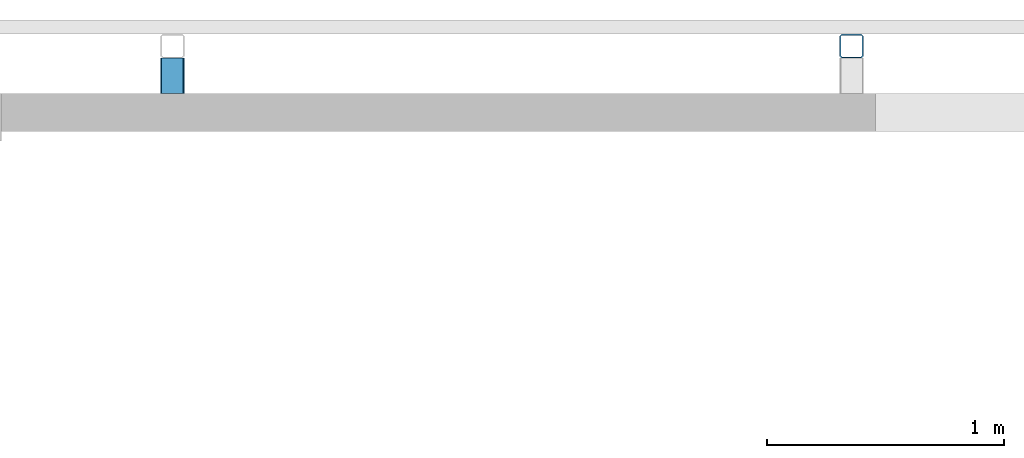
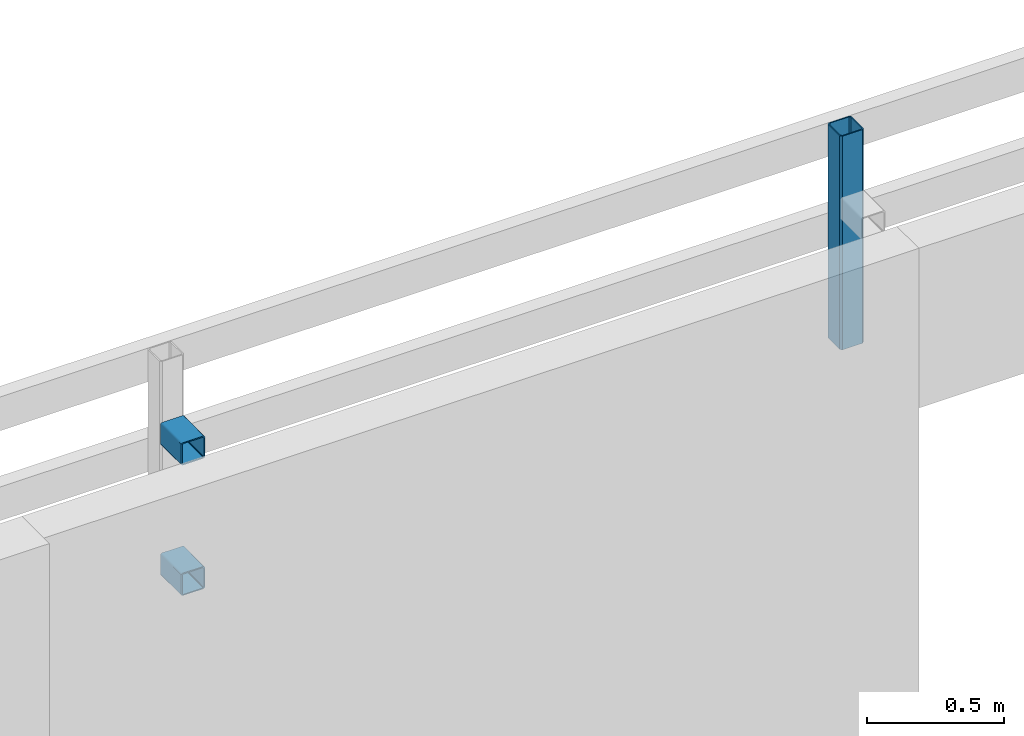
# One storey, part 17 of 42: 3 members.
"""IFC4 building model written with IfcOpenShell, lengths in metres."""

from ifc_helpers import new_model, entity, si_unit, converted_unit, derived_unit, frame, origin, place, context, subcontext, project, spatial, faceted_brep, material, element, save


model = new_model("IFC4")

# Units and contexts
model_context = context("Model", 3, precision=1e-05, world=origin())
plan_context = context("Plan", 2, precision=1e-05, world=origin())
body_context = subcontext(model_context, "Body", "Model", "MODEL_VIEW")
ifc_project = project(units=[si_unit("LENGTHUNIT", "METRE"), si_unit("AREAUNIT", "SQUARE_METRE"), si_unit("VOLUMEUNIT", "CUBIC_METRE"), si_unit("MASSUNIT", "GRAM", prefix="KILO"), converted_unit("PLANEANGLEUNIT", "DEGREE", entity("IfcPlaneAngleMeasure", 0.0174532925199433), si_unit("PLANEANGLEUNIT", "RADIAN"), dimensions=[0, 0, 0, 0, 0, 0, 0]), derived_unit("THERMALTRANSMITTANCEUNIT", [(si_unit("POWERUNIT", "WATT"), 1), (si_unit("THERMODYNAMICTEMPERATUREUNIT", "KELVIN"), -1), (si_unit("LENGTHUNIT", "METRE"), -2)]), derived_unit("VOLUMETRICFLOWRATEUNIT", [(si_unit("LENGTHUNIT", "METRE"), 3), (converted_unit("TIMEUNIT", "hour", entity("IfcTimeMeasure", 3600.0), si_unit("TIMEUNIT", "SECOND"), dimensions=[0, 0, 1, 0, 0, 0, 0]), -1), (si_unit("LENGTHUNIT", "METRE"), -1)])], contexts=[model_context, plan_context])

# Site, building, storey
site_placement = place(None, origin())
site = spatial("IfcSite", under=ifc_project, at=site_placement, Name="Site", CompositionType="ELEMENT")
building_placement = place(site_placement, origin())
building = spatial("IfcBuilding", under=site, at=building_placement, Name="Admin", CompositionType="ELEMENT")
storey_placement = place(building_placement, frame((0.0, 0.0, 6.61)))
storey = spatial("IfcBuildingStorey", under=building, at=storey_placement, Name="02-Etage2", CompositionType="ELEMENT", Elevation=6.61)

# Members
ifc_material_1 = material(Name="S235")
member_1_placement = place(storey_placement, frame((32.4798005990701, 22.4994493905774, 2.28)))
element("IfcMember", 1, at=member_1_placement, inside=storey, material=ifc_material_1, Name="Bandeau R+2", context=body_context, shape_type="Brep", body=[
    faceted_brep([(0.09, 0.005, 0.0), (0.09, 0.005, 0.95), (0.01, 0.005, 0.95), (0.01, 0.005, 0.0), (0.095, 0.01, 0.0), (0.095, 0.01, 0.95), (0.095, 0.09, 0.0), (0.095, 0.09, 0.95), (0.09, 0.095, 0.0), (0.09, 0.095, 0.95), (0.01, 0.095, 0.0), (0.01, 0.095, 0.95), (0.005, 0.09, 0.0), (0.005, 0.09, 0.95), (0.005, 0.01, 0.0), (0.005, 0.01, 0.95), (0.0, 0.0075, 0.0), (0.0, 0.0075, 0.95), (0.0075, 0.0, 0.95), (0.0075, 0.0, 0.0), (0.0, 0.0925, 0.0), (0.0, 0.0925, 0.95), (0.0075, 0.1, 0.0), (0.0075, 0.1, 0.95), (0.0925, 0.1, 0.0), (0.0925, 0.1, 0.95), (0.1, 0.0925, 0.0), (0.1, 0.0925, 0.95), (0.1, 0.0075, 0.0), (0.1, 0.0075, 0.95), (0.0925, 0.0, 0.0), (0.0925, 0.0, 0.95)], [[[0, 1, 2, 3]], [[4, 5, 1, 0]], [[6, 7, 5, 4]], [[8, 9, 7, 6]], [[10, 11, 9, 8]], [[12, 13, 11, 10]], [[14, 15, 13, 12]], [[3, 2, 15, 14]], [[16, 17, 18, 19]], [[20, 21, 17, 16]], [[22, 23, 21, 20]], [[24, 25, 23, 22]], [[26, 27, 25, 24]], [[28, 29, 27, 26]], [[30, 31, 29, 28]], [[19, 18, 31, 30]], [[18, 17, 21, 23, 25, 27, 29, 31], [2, 1, 5, 7, 9, 11, 13, 15]], [[19, 30, 28, 26, 24, 22, 20, 16], [3, 14, 12, 10, 8, 6, 4, 0]]], orient=[[False], [False], [False], [False], [False], [False], [False], [False], [False], [False], [False], [False], [False], [False], [False], [False], [False, False], [False, False]]),
])
ifc_material_2 = material(Name="S235")
member_2_placement = place(storey_placement, frame((29.6198005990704, 22.3494493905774, 2.28)))
element("IfcMember", 2, at=member_2_placement, inside=storey, material=ifc_material_2, Name="Bandeau R+2", context=body_context, shape_type="Brep", body=[
    faceted_brep([(0.00500000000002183, 0.15, 0.09), (0.00500000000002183, 0.15, 0.01), (0.005, 1.81898940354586e-14, 0.01), (0.005, 1.81898940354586e-14, 0.09), (0.00507596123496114, 0.15, 0.0908682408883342), (0.00507596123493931, 1.81898940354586e-14, 0.0908682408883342), (0.00530153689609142, 0.15, 0.0917101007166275), (0.00530153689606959, 1.81898940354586e-14, 0.0917101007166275), (0.00566987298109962, 0.15, 0.0925), (0.00566987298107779, 1.81898940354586e-14, 0.0925), (0.00616977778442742, 0.15, 0.0932139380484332), (0.0061697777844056, 1.81898940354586e-14, 0.0932139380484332), (0.00678606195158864, 0.15, 0.0938302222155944), (0.00678606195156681, 1.81898940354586e-14, 0.0938302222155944), (0.00750000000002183, 0.15, 0.0943301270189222), (0.0075, 1.81898940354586e-14, 0.0943301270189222), (0.00828989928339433, 0.15, 0.0946984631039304), (0.00828989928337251, 1.81898940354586e-14, 0.0946984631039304), (0.00913175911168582, 0.15, 0.0949240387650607), (0.009131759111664, 1.81898940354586e-14, 0.0949240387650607), (0.0100000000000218, 0.15, 0.095), (0.01, 1.81898940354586e-14, 0.095), (0.0900000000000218, 0.149999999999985, 0.095), (0.09, 3.63797880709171e-15, 0.095), (0.0908682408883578, 0.149999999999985, 0.0949240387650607), (0.090868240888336, 3.63797880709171e-15, 0.0949240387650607), (0.0917101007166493, 0.149999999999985, 0.0946984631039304), (0.0917101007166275, 3.63797880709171e-15, 0.0946984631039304), (0.0925000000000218, 0.149999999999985, 0.0943301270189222), (0.0925, 3.63797880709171e-15, 0.0943301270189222), (0.093213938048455, 0.149999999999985, 0.0938302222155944), (0.0932139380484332, 3.63797880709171e-15, 0.0938302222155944), (0.0938302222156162, 0.149999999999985, 0.0932139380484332), (0.0938302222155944, 3.63797880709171e-15, 0.0932139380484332), (0.094330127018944, 0.149999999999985, 0.0925), (0.0943301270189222, 3.63797880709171e-15, 0.0925), (0.0946984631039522, 0.149999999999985, 0.0917101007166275), (0.0946984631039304, 3.63797880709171e-15, 0.0917101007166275), (0.0949240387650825, 0.149999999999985, 0.0908682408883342), (0.0949240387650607, 3.63797880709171e-15, 0.0908682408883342), (0.0950000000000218, 0.149999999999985, 0.09), (0.095, 3.63797880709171e-15, 0.09), (0.0950000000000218, 0.149999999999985, 0.01), (0.095, 3.63797880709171e-15, 0.01), (0.0949240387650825, 0.149999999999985, 0.00913175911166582), (0.0949240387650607, 3.63797880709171e-15, 0.00913175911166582), (0.0946984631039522, 0.149999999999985, 0.00828989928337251), (0.0946984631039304, 3.63797880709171e-15, 0.00828989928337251), (0.094330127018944, 0.149999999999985, 0.0075), (0.0943301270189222, 3.63797880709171e-15, 0.0075), (0.0938302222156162, 0.149999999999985, 0.00678606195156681), (0.0938302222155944, 3.63797880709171e-15, 0.00678606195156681), (0.093213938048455, 0.149999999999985, 0.0061697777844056), (0.0932139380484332, 3.63797880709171e-15, 0.0061697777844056), (0.0925000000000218, 0.149999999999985, 0.00566987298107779), (0.0925, 3.63797880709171e-15, 0.00566987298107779), (0.0917101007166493, 0.149999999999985, 0.00530153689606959), (0.0917101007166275, 3.63797880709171e-15, 0.00530153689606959), (0.0908682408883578, 0.149999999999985, 0.00507596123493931), (0.090868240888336, 3.63797880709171e-15, 0.00507596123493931), (0.0900000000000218, 0.149999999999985, 0.005), (0.09, 3.63797880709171e-15, 0.005), (0.0100000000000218, 0.15, 0.005), (0.01, 1.81898940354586e-14, 0.005), (0.00913175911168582, 0.15, 0.00507596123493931), (0.009131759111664, 1.81898940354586e-14, 0.00507596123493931), (0.00828989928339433, 0.15, 0.00530153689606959), (0.00828989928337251, 1.81898940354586e-14, 0.00530153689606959), (0.00750000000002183, 0.15, 0.00566987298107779), (0.0075, 1.81898940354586e-14, 0.00566987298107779), (0.00678606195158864, 0.15, 0.0061697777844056), (0.00678606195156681, 1.81898940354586e-14, 0.0061697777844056), (0.00616977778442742, 0.15, 0.00678606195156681), (0.0061697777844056, 1.81898940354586e-14, 0.00678606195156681), (0.00566987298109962, 0.15, 0.0075), (0.00566987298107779, 1.81898940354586e-14, 0.0075), (0.00530153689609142, 0.15, 0.00828989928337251), (0.00530153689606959, 1.81898940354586e-14, 0.00828989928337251), (0.00507596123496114, 0.15, 0.00913175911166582), (0.00507596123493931, 1.81898940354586e-14, 0.00913175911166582), (0.0925000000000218, 0.149999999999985, 0.1), (0.093802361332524, 0.149999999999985, 0.099886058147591), (0.0938023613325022, 3.63797880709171e-15, 0.099886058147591), (0.0925, 3.63797880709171e-15, 0.1), (0.00750000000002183, 0.15, 0.1), (0.0075, 1.81898940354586e-14, 0.1), (0.00619763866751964, 0.15, 0.099886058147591), (0.00619763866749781, 1.81898940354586e-14, 0.099886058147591), (0.00493484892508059, 0.15, 0.0995476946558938), (0.00493484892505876, 1.81898940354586e-14, 0.0995476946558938), (0.00375000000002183, 0.15, 0.0989951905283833), (0.00375, 1.81898940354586e-14, 0.0989951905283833), (0.00267909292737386, 0.15, 0.0982453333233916), (0.00267909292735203, 1.81898940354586e-14, 0.0982453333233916), (0.0017546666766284, 0.15, 0.0973209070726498), (0.00175466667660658, 1.81898940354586e-14, 0.0973209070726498), (0.00100480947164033, 0.15, 0.09625), (0.0010048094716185, 1.81898940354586e-14, 0.09625), (0.000452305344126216, 0.15, 0.0950651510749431), (0.000452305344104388, 1.81898940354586e-14, 0.0950651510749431), (0.000113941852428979, 0.15, 0.0938023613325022), (0.000113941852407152, 1.81898940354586e-14, 0.0938023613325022), (2.18278728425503e-14, 0.15, 0.0925), (0.0, 1.81898940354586e-14, 0.0925), (0.000113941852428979, 0.15, 0.00619763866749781), (2.18278728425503e-14, 0.15, 0.0075), (0.0, 1.81898940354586e-14, 0.0075), (0.000113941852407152, 1.81898940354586e-14, 0.00619763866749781), (0.000452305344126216, 0.15, 0.00493484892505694), (0.000452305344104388, 1.81898940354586e-14, 0.00493484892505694), (0.00100480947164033, 0.15, 0.00375), (0.0010048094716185, 1.81898940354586e-14, 0.00375), (0.0017546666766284, 0.15, 0.00267909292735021), (0.00175466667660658, 1.81898940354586e-14, 0.00267909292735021), (0.00267909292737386, 0.15, 0.00175466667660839), (0.00267909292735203, 1.81898940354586e-14, 0.00175466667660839), (0.00375000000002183, 0.15, 0.00100480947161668), (0.00375, 1.81898940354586e-14, 0.00100480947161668), (0.00493484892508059, 0.15, 0.000452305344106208), (0.00493484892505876, 1.81898940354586e-14, 0.000452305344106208), (0.00619763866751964, 0.15, 0.000113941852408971), (0.00619763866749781, 1.81898940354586e-14, 0.000113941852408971), (0.00750000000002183, 0.15, 0.0), (0.0075, 1.81898940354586e-14, 0.0), (0.0925000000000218, 0.149999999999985, 0.0), (0.0925, 3.63797880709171e-15, 0.0), (0.093802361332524, 0.149999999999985, 0.000113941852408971), (0.0938023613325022, 3.63797880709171e-15, 0.000113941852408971), (0.0950651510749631, 0.149999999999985, 0.000452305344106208), (0.0950651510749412, 3.63797880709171e-15, 0.000452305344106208), (0.0962500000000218, 0.149999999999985, 0.00100480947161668), (0.09625, 3.63797880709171e-15, 0.00100480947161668), (0.0973209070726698, 0.149999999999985, 0.00175466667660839), (0.097320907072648, 3.63797880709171e-15, 0.00175466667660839), (0.0982453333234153, 0.149999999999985, 0.00267909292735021), (0.0982453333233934, 3.63797880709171e-15, 0.00267909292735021), (0.0989951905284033, 0.149999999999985, 0.00375), (0.0989951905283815, 3.63797880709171e-15, 0.00375), (0.0995476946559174, 0.149999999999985, 0.00493484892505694), (0.0995476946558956, 3.63797880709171e-15, 0.00493484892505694), (0.0998860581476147, 0.149999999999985, 0.00619763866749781), (0.0998860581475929, 3.63797880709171e-15, 0.00619763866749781), (0.100000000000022, 0.15, 0.0075), (0.1, 3.63797880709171e-15, 0.0075), (0.0998860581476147, 0.149999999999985, 0.0938023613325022), (0.100000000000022, 0.15, 0.0925), (0.1, 3.63797880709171e-15, 0.0925), (0.0998860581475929, 3.63797880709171e-15, 0.0938023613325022), (0.0995476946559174, 0.149999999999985, 0.0950651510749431), (0.0995476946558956, 3.63797880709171e-15, 0.0950651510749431), (0.0989951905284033, 0.149999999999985, 0.09625), (0.0989951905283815, 3.63797880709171e-15, 0.09625), (0.0982453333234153, 0.149999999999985, 0.0973209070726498), (0.0982453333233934, 3.63797880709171e-15, 0.0973209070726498), (0.0973209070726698, 0.149999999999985, 0.0982453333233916), (0.097320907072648, 3.63797880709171e-15, 0.0982453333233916), (0.0962500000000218, 0.149999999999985, 0.0989951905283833), (0.09625, 3.63797880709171e-15, 0.0989951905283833), (0.0950651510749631, 0.149999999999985, 0.0995476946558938), (0.0950651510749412, 3.63797880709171e-15, 0.0995476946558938)], [[[0, 1, 2, 3]], [[4, 0, 3, 5]], [[6, 4, 5, 7]], [[8, 6, 7, 9]], [[10, 8, 9, 11]], [[12, 10, 11, 13]], [[14, 12, 13, 15]], [[16, 14, 15, 17]], [[18, 16, 17, 19]], [[20, 18, 19, 21]], [[22, 20, 21, 23]], [[24, 22, 23, 25]], [[26, 24, 25, 27]], [[28, 26, 27, 29]], [[30, 28, 29, 31]], [[32, 30, 31, 33]], [[34, 32, 33, 35]], [[36, 34, 35, 37]], [[38, 36, 37, 39]], [[40, 38, 39, 41]], [[42, 40, 41, 43]], [[44, 42, 43, 45]], [[46, 44, 45, 47]], [[48, 46, 47, 49]], [[50, 48, 49, 51]], [[52, 50, 51, 53]], [[54, 52, 53, 55]], [[56, 54, 55, 57]], [[58, 56, 57, 59]], [[60, 58, 59, 61]], [[62, 60, 61, 63]], [[64, 62, 63, 65]], [[66, 64, 65, 67]], [[68, 66, 67, 69]], [[70, 68, 69, 71]], [[72, 70, 71, 73]], [[74, 72, 73, 75]], [[76, 74, 75, 77]], [[78, 76, 77, 79]], [[1, 78, 79, 2]], [[80, 81, 82, 83]], [[84, 80, 83, 85]], [[86, 84, 85, 87]], [[88, 86, 87, 89]], [[90, 88, 89, 91]], [[92, 90, 91, 93]], [[94, 92, 93, 95]], [[96, 94, 95, 97]], [[98, 96, 97, 99]], [[100, 98, 99, 101]], [[102, 100, 101, 103]], [[104, 105, 106, 107]], [[108, 104, 107, 109]], [[110, 108, 109, 111]], [[112, 110, 111, 113]], [[114, 112, 113, 115]], [[116, 114, 115, 117]], [[118, 116, 117, 119]], [[120, 118, 119, 121]], [[122, 120, 121, 123]], [[124, 122, 123, 125]], [[126, 124, 125, 127]], [[128, 126, 127, 129]], [[130, 128, 129, 131]], [[132, 130, 131, 133]], [[134, 132, 133, 135]], [[136, 134, 135, 137]], [[138, 136, 137, 139]], [[140, 138, 139, 141]], [[142, 140, 141, 143]], [[144, 145, 146, 147]], [[148, 144, 147, 149]], [[150, 148, 149, 151]], [[152, 150, 151, 153]], [[154, 152, 153, 155]], [[156, 154, 155, 157]], [[158, 156, 157, 159]], [[81, 158, 159, 82]], [[146, 143, 141, 139, 137, 135, 133, 131, 129, 127, 125, 123, 121, 119, 117, 115, 113, 111, 109, 107, 106, 103, 101, 99, 97, 95, 93, 91, 89, 87, 85, 83, 82, 159, 157, 155, 153, 151, 149, 147], [2, 79, 77, 75, 73, 71, 69, 67, 65, 63, 61, 59, 57, 55, 53, 51, 49, 47, 45, 43, 41, 39, 37, 35, 33, 31, 29, 27, 25, 23, 21, 19, 17, 15, 13, 11, 9, 7, 5, 3]], [[103, 106, 105, 102]], [[102, 105, 104, 108, 110, 112, 114, 116, 118, 120, 122, 124, 126, 128, 130, 132, 134, 136, 138, 140, 142, 145, 144, 148, 150, 152, 154, 156, 158, 81, 80, 84, 86, 88, 90, 92, 94, 96, 98, 100], [1, 0, 4, 6, 8, 10, 12, 14, 16, 18, 20, 22, 24, 26, 28, 30, 32, 34, 36, 38, 40, 42, 44, 46, 48, 50, 52, 54, 56, 58, 60, 62, 64, 66, 68, 70, 72, 74, 76, 78]], [[145, 142, 143, 146]]], orient=[[False], [False], [False], [False], [False], [False], [False], [False], [False], [False], [False], [False], [False], [False], [False], [False], [False], [False], [False], [False], [False], [False], [False], [False], [False], [False], [False], [False], [False], [False], [False], [False], [False], [False], [False], [False], [False], [False], [False], [False], [False], [False], [False], [False], [False], [False], [False], [False], [False], [False], [False], [False], [False], [False], [False], [False], [False], [False], [False], [False], [False], [False], [False], [False], [False], [False], [False], [False], [False], [False], [False], [False], [False], [False], [False], [False], [False], [False], [False, False], [False], [False, False], [False]]),
])
ifc_material_3 = material(Name="S235")
member_3_placement = place(storey_placement, frame((29.6198005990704, 22.3494493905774, 2.86)))
element("IfcMember", 3, at=member_3_placement, inside=storey, material=ifc_material_3, Name="Bandeau R+2", context=body_context, shape_type="Brep", body=[
    faceted_brep([(0.00500000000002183, 0.149999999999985, 0.09), (0.00500000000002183, 0.149999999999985, 0.01), (0.005, 1.09139364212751e-14, 0.01), (0.005, 1.09139364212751e-14, 0.09), (0.00507596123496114, 0.149999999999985, 0.0908682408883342), (0.00507596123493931, 1.09139364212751e-14, 0.0908682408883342), (0.00530153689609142, 0.149999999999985, 0.0917101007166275), (0.00530153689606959, 1.09139364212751e-14, 0.0917101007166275), (0.00566987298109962, 0.149999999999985, 0.0925), (0.00566987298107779, 1.09139364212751e-14, 0.0925), (0.00616977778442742, 0.149999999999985, 0.0932139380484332), (0.0061697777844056, 1.09139364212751e-14, 0.0932139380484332), (0.00678606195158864, 0.149999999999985, 0.0938302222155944), (0.00678606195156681, 1.09139364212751e-14, 0.0938302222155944), (0.00750000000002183, 0.149999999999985, 0.0943301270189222), (0.0075, 1.09139364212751e-14, 0.0943301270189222), (0.00828989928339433, 0.149999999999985, 0.0946984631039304), (0.00828989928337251, 1.09139364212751e-14, 0.0946984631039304), (0.00913175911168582, 0.149999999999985, 0.0949240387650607), (0.009131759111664, 1.09139364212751e-14, 0.0949240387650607), (0.0100000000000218, 0.149999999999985, 0.095), (0.01, 1.09139364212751e-14, 0.095), (0.0900000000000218, 0.149999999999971, 0.095), (0.09, -3.63797880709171e-15, 0.095), (0.0908682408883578, 0.149999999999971, 0.0949240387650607), (0.090868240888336, -3.63797880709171e-15, 0.0949240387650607), (0.0917101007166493, 0.149999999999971, 0.0946984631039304), (0.0917101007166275, -3.63797880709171e-15, 0.0946984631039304), (0.0925000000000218, 0.149999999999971, 0.0943301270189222), (0.0925, -3.63797880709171e-15, 0.0943301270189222), (0.093213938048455, 0.149999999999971, 0.0938302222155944), (0.0932139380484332, -3.63797880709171e-15, 0.0938302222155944), (0.0938302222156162, 0.149999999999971, 0.0932139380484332), (0.0938302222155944, -3.63797880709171e-15, 0.0932139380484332), (0.094330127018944, 0.149999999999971, 0.0925), (0.0943301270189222, -3.63797880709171e-15, 0.0925), (0.0946984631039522, 0.149999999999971, 0.0917101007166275), (0.0946984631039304, -3.63797880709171e-15, 0.0917101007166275), (0.0949240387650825, 0.149999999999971, 0.0908682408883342), (0.0949240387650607, -3.63797880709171e-15, 0.0908682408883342), (0.0950000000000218, 0.149999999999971, 0.09), (0.095, -3.63797880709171e-15, 0.09), (0.0950000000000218, 0.149999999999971, 0.01), (0.095, -3.63797880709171e-15, 0.01), (0.0949240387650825, 0.149999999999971, 0.00913175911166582), (0.0949240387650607, -3.63797880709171e-15, 0.00913175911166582), (0.0946984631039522, 0.149999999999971, 0.00828989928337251), (0.0946984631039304, -3.63797880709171e-15, 0.00828989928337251), (0.094330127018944, 0.149999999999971, 0.0075), (0.0943301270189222, -3.63797880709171e-15, 0.0075), (0.0938302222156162, 0.149999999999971, 0.00678606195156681), (0.0938302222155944, -3.63797880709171e-15, 0.00678606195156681), (0.093213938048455, 0.149999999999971, 0.0061697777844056), (0.0932139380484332, -3.63797880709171e-15, 0.0061697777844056), (0.0925000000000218, 0.149999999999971, 0.00566987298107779), (0.0925, -3.63797880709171e-15, 0.00566987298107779), (0.0917101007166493, 0.149999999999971, 0.00530153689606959), (0.0917101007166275, -3.63797880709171e-15, 0.00530153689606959), (0.0908682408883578, 0.149999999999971, 0.00507596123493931), (0.090868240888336, -3.63797880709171e-15, 0.00507596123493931), (0.0900000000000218, 0.149999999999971, 0.005), (0.09, -3.63797880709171e-15, 0.005), (0.0100000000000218, 0.149999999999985, 0.005), (0.01, 1.09139364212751e-14, 0.005), (0.00913175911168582, 0.149999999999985, 0.00507596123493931), (0.009131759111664, 1.09139364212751e-14, 0.00507596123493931), (0.00828989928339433, 0.149999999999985, 0.00530153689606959), (0.00828989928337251, 1.09139364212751e-14, 0.00530153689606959), (0.00750000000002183, 0.149999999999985, 0.00566987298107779), (0.0075, 1.09139364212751e-14, 0.00566987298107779), (0.00678606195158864, 0.149999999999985, 0.0061697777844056), (0.00678606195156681, 1.09139364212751e-14, 0.0061697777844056), (0.00616977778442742, 0.149999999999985, 0.00678606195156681), (0.0061697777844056, 1.09139364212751e-14, 0.00678606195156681), (0.00566987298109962, 0.149999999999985, 0.0075), (0.00566987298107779, 1.09139364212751e-14, 0.0075), (0.00530153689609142, 0.149999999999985, 0.00828989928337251), (0.00530153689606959, 1.09139364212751e-14, 0.00828989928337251), (0.00507596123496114, 0.149999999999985, 0.00913175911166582), (0.00507596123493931, 1.09139364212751e-14, 0.00913175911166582), (0.0925000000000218, 0.149999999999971, 0.1), (0.093802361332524, 0.149999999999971, 0.099886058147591), (0.0938023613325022, -3.63797880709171e-15, 0.099886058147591), (0.0925, -3.63797880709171e-15, 0.1), (0.00750000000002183, 0.149999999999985, 0.1), (0.0075, 1.09139364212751e-14, 0.1), (0.00619763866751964, 0.149999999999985, 0.099886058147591), (0.00619763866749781, 1.09139364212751e-14, 0.099886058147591), (0.00493484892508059, 0.149999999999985, 0.0995476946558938), (0.00493484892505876, 1.09139364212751e-14, 0.0995476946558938), (0.00375000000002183, 0.149999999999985, 0.0989951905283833), (0.00375, 1.09139364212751e-14, 0.0989951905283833), (0.00267909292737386, 0.149999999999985, 0.0982453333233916), (0.00267909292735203, 1.09139364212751e-14, 0.0982453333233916), (0.0017546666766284, 0.149999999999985, 0.0973209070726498), (0.00175466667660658, 1.09139364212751e-14, 0.0973209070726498), (0.00100480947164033, 0.149999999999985, 0.09625), (0.0010048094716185, 1.09139364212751e-14, 0.09625), (0.000452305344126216, 0.149999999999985, 0.0950651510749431), (0.000452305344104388, 1.09139364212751e-14, 0.0950651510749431), (0.000113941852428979, 0.149999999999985, 0.0938023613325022), (0.000113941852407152, 1.09139364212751e-14, 0.0938023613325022), (2.18278728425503e-14, 0.149999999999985, 0.0925), (0.0, 1.09139364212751e-14, 0.0925), (0.000113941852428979, 0.149999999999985, 0.00619763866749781), (2.18278728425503e-14, 0.149999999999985, 0.0075), (0.0, 1.09139364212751e-14, 0.0075), (0.000113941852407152, 1.09139364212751e-14, 0.00619763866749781), (0.000452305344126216, 0.149999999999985, 0.00493484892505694), (0.000452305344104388, 1.09139364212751e-14, 0.00493484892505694), (0.00100480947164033, 0.149999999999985, 0.00375), (0.0010048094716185, 1.09139364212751e-14, 0.00375), (0.0017546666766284, 0.149999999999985, 0.00267909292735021), (0.00175466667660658, 1.09139364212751e-14, 0.00267909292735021), (0.00267909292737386, 0.149999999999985, 0.00175466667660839), (0.00267909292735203, 1.09139364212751e-14, 0.00175466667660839), (0.00375000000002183, 0.149999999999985, 0.00100480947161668), (0.00375, 1.09139364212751e-14, 0.00100480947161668), (0.00493484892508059, 0.149999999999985, 0.000452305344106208), (0.00493484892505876, 1.09139364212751e-14, 0.000452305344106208), (0.00619763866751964, 0.149999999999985, 0.000113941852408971), (0.00619763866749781, 1.09139364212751e-14, 0.000113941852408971), (0.00750000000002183, 0.149999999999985, 0.0), (0.0075, 1.09139364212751e-14, 0.0), (0.0925000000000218, 0.149999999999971, 0.0), (0.0925, -3.63797880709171e-15, 0.0), (0.093802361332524, 0.149999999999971, 0.000113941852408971), (0.0938023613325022, -3.63797880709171e-15, 0.000113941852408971), (0.0950651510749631, 0.149999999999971, 0.000452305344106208), (0.0950651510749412, -3.63797880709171e-15, 0.000452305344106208), (0.0962500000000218, 0.149999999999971, 0.00100480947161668), (0.09625, -3.63797880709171e-15, 0.00100480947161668), (0.0973209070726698, 0.149999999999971, 0.00175466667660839), (0.097320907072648, -3.63797880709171e-15, 0.00175466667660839), (0.0982453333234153, 0.149999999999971, 0.00267909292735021), (0.0982453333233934, -3.63797880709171e-15, 0.00267909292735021), (0.0989951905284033, 0.149999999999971, 0.00375), (0.0989951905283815, -3.63797880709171e-15, 0.00375), (0.0995476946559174, 0.149999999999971, 0.00493484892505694), (0.0995476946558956, -3.63797880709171e-15, 0.00493484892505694), (0.0998860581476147, 0.149999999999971, 0.00619763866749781), (0.0998860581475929, -3.63797880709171e-15, 0.00619763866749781), (0.100000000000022, 0.149999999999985, 0.0075), (0.1, -3.63797880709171e-15, 0.0075), (0.0998860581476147, 0.149999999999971, 0.0938023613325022), (0.100000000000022, 0.149999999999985, 0.0925), (0.1, -3.63797880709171e-15, 0.0925), (0.0998860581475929, -3.63797880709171e-15, 0.0938023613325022), (0.0995476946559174, 0.149999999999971, 0.0950651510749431), (0.0995476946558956, -3.63797880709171e-15, 0.0950651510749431), (0.0989951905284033, 0.149999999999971, 0.09625), (0.0989951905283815, -3.63797880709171e-15, 0.09625), (0.0982453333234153, 0.149999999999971, 0.0973209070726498), (0.0982453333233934, -3.63797880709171e-15, 0.0973209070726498), (0.0973209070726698, 0.149999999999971, 0.0982453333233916), (0.097320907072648, -3.63797880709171e-15, 0.0982453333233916), (0.0962500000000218, 0.149999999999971, 0.0989951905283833), (0.09625, -3.63797880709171e-15, 0.0989951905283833), (0.0950651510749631, 0.149999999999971, 0.0995476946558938), (0.0950651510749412, -3.63797880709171e-15, 0.0995476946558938)], [[[0, 1, 2, 3]], [[4, 0, 3, 5]], [[6, 4, 5, 7]], [[8, 6, 7, 9]], [[10, 8, 9, 11]], [[12, 10, 11, 13]], [[14, 12, 13, 15]], [[16, 14, 15, 17]], [[18, 16, 17, 19]], [[20, 18, 19, 21]], [[22, 20, 21, 23]], [[24, 22, 23, 25]], [[26, 24, 25, 27]], [[28, 26, 27, 29]], [[30, 28, 29, 31]], [[32, 30, 31, 33]], [[34, 32, 33, 35]], [[36, 34, 35, 37]], [[38, 36, 37, 39]], [[40, 38, 39, 41]], [[42, 40, 41, 43]], [[44, 42, 43, 45]], [[46, 44, 45, 47]], [[48, 46, 47, 49]], [[50, 48, 49, 51]], [[52, 50, 51, 53]], [[54, 52, 53, 55]], [[56, 54, 55, 57]], [[58, 56, 57, 59]], [[60, 58, 59, 61]], [[62, 60, 61, 63]], [[64, 62, 63, 65]], [[66, 64, 65, 67]], [[68, 66, 67, 69]], [[70, 68, 69, 71]], [[72, 70, 71, 73]], [[74, 72, 73, 75]], [[76, 74, 75, 77]], [[78, 76, 77, 79]], [[1, 78, 79, 2]], [[80, 81, 82, 83]], [[84, 80, 83, 85]], [[86, 84, 85, 87]], [[88, 86, 87, 89]], [[90, 88, 89, 91]], [[92, 90, 91, 93]], [[94, 92, 93, 95]], [[96, 94, 95, 97]], [[98, 96, 97, 99]], [[100, 98, 99, 101]], [[102, 100, 101, 103]], [[104, 105, 106, 107]], [[108, 104, 107, 109]], [[110, 108, 109, 111]], [[112, 110, 111, 113]], [[114, 112, 113, 115]], [[116, 114, 115, 117]], [[118, 116, 117, 119]], [[120, 118, 119, 121]], [[122, 120, 121, 123]], [[124, 122, 123, 125]], [[126, 124, 125, 127]], [[128, 126, 127, 129]], [[130, 128, 129, 131]], [[132, 130, 131, 133]], [[134, 132, 133, 135]], [[136, 134, 135, 137]], [[138, 136, 137, 139]], [[140, 138, 139, 141]], [[142, 140, 141, 143]], [[144, 145, 146, 147]], [[148, 144, 147, 149]], [[150, 148, 149, 151]], [[152, 150, 151, 153]], [[154, 152, 153, 155]], [[156, 154, 155, 157]], [[158, 156, 157, 159]], [[81, 158, 159, 82]], [[146, 143, 141, 139, 137, 135, 133, 131, 129, 127, 125, 123, 121, 119, 117, 115, 113, 111, 109, 107, 106, 103, 101, 99, 97, 95, 93, 91, 89, 87, 85, 83, 82, 159, 157, 155, 153, 151, 149, 147], [2, 79, 77, 75, 73, 71, 69, 67, 65, 63, 61, 59, 57, 55, 53, 51, 49, 47, 45, 43, 41, 39, 37, 35, 33, 31, 29, 27, 25, 23, 21, 19, 17, 15, 13, 11, 9, 7, 5, 3]], [[103, 106, 105, 102]], [[102, 105, 104, 108, 110, 112, 114, 116, 118, 120, 122, 124, 126, 128, 130, 132, 134, 136, 138, 140, 142, 145, 144, 148, 150, 152, 154, 156, 158, 81, 80, 84, 86, 88, 90, 92, 94, 96, 98, 100], [1, 0, 4, 6, 8, 10, 12, 14, 16, 18, 20, 22, 24, 26, 28, 30, 32, 34, 36, 38, 40, 42, 44, 46, 48, 50, 52, 54, 56, 58, 60, 62, 64, 66, 68, 70, 72, 74, 76, 78]], [[145, 142, 143, 146]]], orient=[[False], [False], [False], [False], [False], [False], [False], [False], [False], [False], [False], [False], [False], [False], [False], [False], [False], [False], [False], [False], [False], [False], [False], [False], [False], [False], [False], [False], [False], [False], [False], [False], [False], [False], [False], [False], [False], [False], [False], [False], [False], [False], [False], [False], [False], [False], [False], [False], [False], [False], [False], [False], [False], [False], [False], [False], [False], [False], [False], [False], [False], [False], [False], [False], [False], [False], [False], [False], [False], [False], [False], [False], [False], [False], [False], [False], [False], [False], [False, False], [False], [False, False], [False]]),
])

save(model, "model.ifc")
